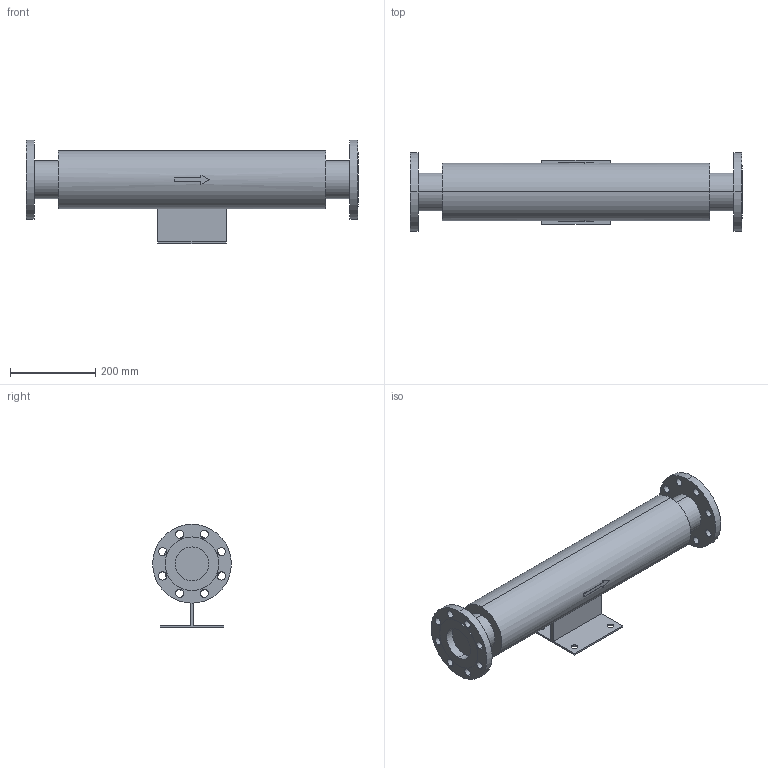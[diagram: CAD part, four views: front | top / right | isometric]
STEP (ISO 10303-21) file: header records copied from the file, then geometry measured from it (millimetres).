
FILE_DESCRIPTION( (''), '2;1');
FILE_NAME ('PC1027.12084.EB-2J　80A_3986.stp','2025-07-29T14:24:09',(''),(''),'spGate 20.6.3 (****-****-****-****)','','');
FILE_SCHEMA (('AUTOMOTIVE_DESIGN'));
Length unit declared in the file: millimetre
Bounding box: 780 x 185 x 242.5 mm (x, y, z)
Volume: 10711534.2 mm3; surface area: 524453.4 mm2
Topology: 1 solids, 1 shells, 93 faces, 242 edges, 162 vertices
Faces by surface type: cylinder 58, plane 35
Entity records: 4849 total; most frequent: CARTESIAN_POINT 563, DIRECTION 492, ORIENTED_EDGE 484, COLOUR_RGB 336, PRESENTATION_STYLE_ASSIGNMENT 336, STYLED_ITEM 336, EDGE_CURVE 242, DRAUGHTING_PRE_DEFINED_CURVE_FONT 242
